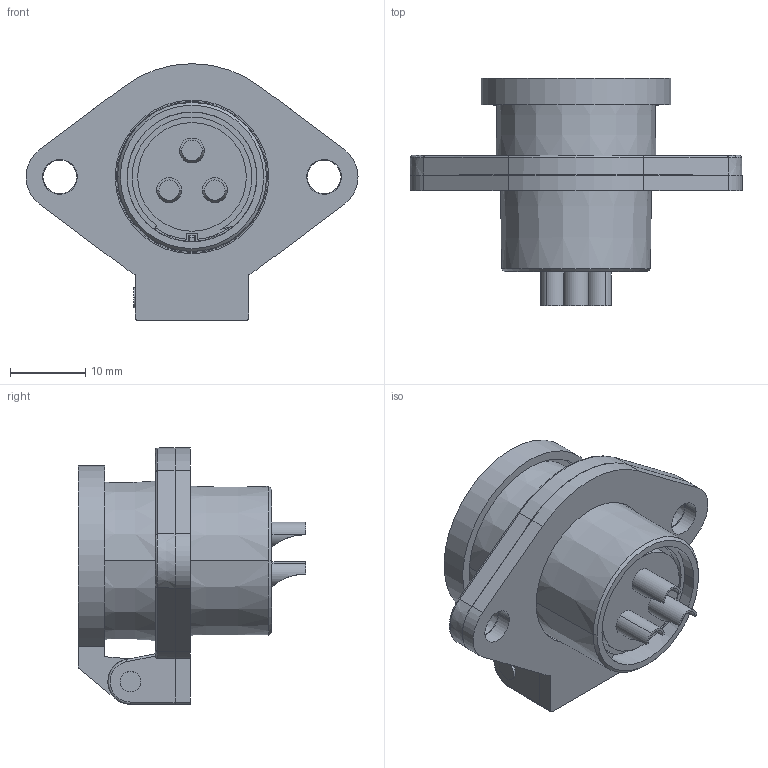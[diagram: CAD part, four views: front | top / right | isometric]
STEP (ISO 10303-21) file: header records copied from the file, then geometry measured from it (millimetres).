
FILE_DESCRIPTION((''),'2;1');
FILE_NAME('PRT0002','2016-06-12T',('Administrator'),(''),'PRO/ENGINEER BY PARAMETRIC TECHNOLOGY CORPORATION, 2015240','PRO/ENGINEER BY PARAMETRIC TECHNOLOGY CORPORATION, 2015240','');
FILE_SCHEMA(('CONFIG_CONTROL_DESIGN'));
Length unit declared in the file: millimetre
Products named in the file (1): PRT0002
Bounding box: 44 x 30.1 x 34 mm (x, y, z)
Volume: 11306.9 mm3; surface area: 7412.8 mm2
Topology: 2 solids, 2 shells, 350 faces, 958 edges, 639 vertices
Faces by surface type: plane 176, cylinder 92, extrusion 49, cone 18, torus 13, sphere 2
Entity records: 11833 total; most frequent: CARTESIAN_POINT 2904, ORIENTED_EDGE 1912, DIRECTION 1710, EDGE_CURVE 956, VERTEX_POINT 639, VECTOR 616, LINE 567, AXIS2_PLACEMENT_3D 547
